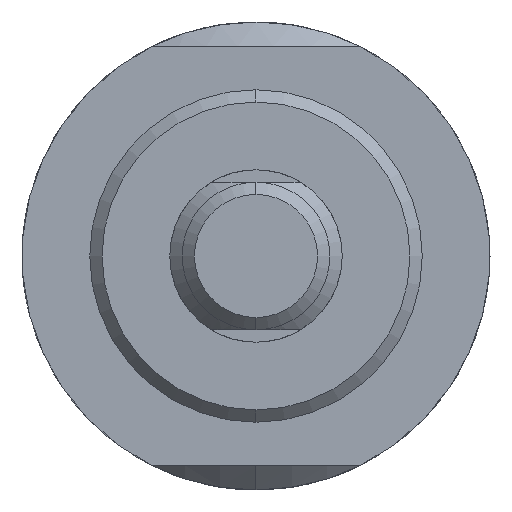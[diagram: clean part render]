
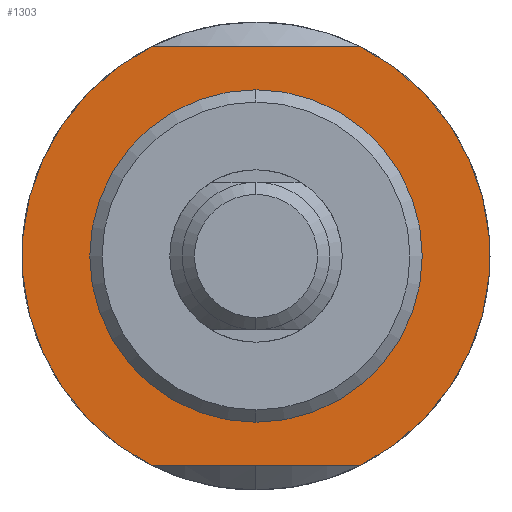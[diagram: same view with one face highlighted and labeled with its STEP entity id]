
A CAD part, left-side view. The second image highlights one B-rep face of the part: STEP entity #1303.
In plain terms, the highlighted planar face has unit normal (-1, 0, 0).
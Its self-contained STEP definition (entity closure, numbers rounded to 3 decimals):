
#10 = ORIENTED_EDGE ( 'NONE', *, *, #189, .F. ) ;
#41 = VECTOR ( 'NONE', #1479, 1000. ) ;
#107 = CARTESIAN_POINT ( 'NONE',  ( 48., -8.485, 17. ) ) ;
#146 = CARTESIAN_POINT ( 'NONE',  ( 48., 15., -17. ) ) ;
#180 = EDGE_LOOP ( 'NONE', ( #1364, #10 ) ) ;
#189 = EDGE_CURVE ( 'NONE', #820, #511, #1575, .T. ) ;
#193 = VERTEX_POINT ( 'NONE', #107 ) ;
#255 = EDGE_CURVE ( 'NONE', #1627, #193, #1677, .T. ) ;
#259 = EDGE_CURVE ( 'NONE', #511, #820, #1459, .T. ) ;
#293 = AXIS2_PLACEMENT_3D ( 'NONE', #904, #1287, #1533 ) ;
#322 = VECTOR ( 'NONE', #1712, 1000. ) ;
#356 = FACE_OUTER_BOUND ( 'NONE', #1842, .T. ) ;
#378 = VERTEX_POINT ( 'NONE', #1425 ) ;
#443 = CARTESIAN_POINT ( 'NONE',  ( 48., 0., 0. ) ) ;
#511 = VERTEX_POINT ( 'NONE', #1812 ) ;
#552 = CARTESIAN_POINT ( 'NONE',  ( 48., 0., -19. ) ) ;
#594 = DIRECTION ( 'NONE',  ( 0., 0., 1. ) ) ;
#599 = EDGE_CURVE ( 'NONE', #378, #193, #1893, .T. ) ;
#640 = DIRECTION ( 'NONE',  ( -1., 0., 0. ) ) ;
#659 = CARTESIAN_POINT ( 'NONE',  ( 48., 0., -13.5 ) ) ;
#765 = LINE ( 'NONE', #146, #41 ) ;
#782 = CARTESIAN_POINT ( 'NONE',  ( 48., 8.485, 17. ) ) ;
#820 = VERTEX_POINT ( 'NONE', #659 ) ;
#841 = DIRECTION ( 'NONE',  ( 1., 0., 0. ) ) ;
#852 = AXIS2_PLACEMENT_3D ( 'NONE', #1663, #1335, #594 ) ;
#870 = ORIENTED_EDGE ( 'NONE', *, *, #1032, .T. ) ;
#904 = CARTESIAN_POINT ( 'NONE',  ( 48., 0., 0. ) ) ;
#942 = CARTESIAN_POINT ( 'NONE',  ( 48., 15., 17. ) ) ;
#980 = DIRECTION ( 'NONE',  ( -1., 0., 0. ) ) ;
#987 = VERTEX_POINT ( 'NONE', #1600 ) ;
#1012 = DIRECTION ( 'NONE',  ( 0., 0., 1. ) ) ;
#1026 = ORIENTED_EDGE ( 'NONE', *, *, #255, .F. ) ;
#1032 = EDGE_CURVE ( 'NONE', #1627, #987, #1757, .T. ) ;
#1194 = AXIS2_PLACEMENT_3D ( 'NONE', #443, #980, #1012 ) ;
#1287 = DIRECTION ( 'NONE',  ( -1., 0., 0. ) ) ;
#1303 = ADVANCED_FACE ( 'NONE', ( #1767, #356 ), #1867, .F. ) ;
#1335 = DIRECTION ( 'NONE',  ( -1., 0., 0. ) ) ;
#1364 = ORIENTED_EDGE ( 'NONE', *, *, #259, .F. ) ;
#1413 = ORIENTED_EDGE ( 'NONE', *, *, #1895, .F. ) ;
#1425 = CARTESIAN_POINT ( 'NONE',  ( 48., -8.485, -17. ) ) ;
#1459 = CIRCLE ( 'NONE', #293, 13.5 ) ;
#1479 = DIRECTION ( 'NONE',  ( 0., 1., 0. ) ) ;
#1488 = AXIS2_PLACEMENT_3D ( 'NONE', #1801, #640, #1682 ) ;
#1533 = DIRECTION ( 'NONE',  ( 0., 0., 1. ) ) ;
#1575 = CIRCLE ( 'NONE', #1194, 13.5 ) ;
#1600 = CARTESIAN_POINT ( 'NONE',  ( 48., 8.485, -17. ) ) ;
#1619 = AXIS2_PLACEMENT_3D ( 'NONE', #552, #841, #1961 ) ;
#1627 = VERTEX_POINT ( 'NONE', #782 ) ;
#1663 = CARTESIAN_POINT ( 'NONE',  ( 48., 0., 0. ) ) ;
#1677 = LINE ( 'NONE', #942, #322 ) ;
#1682 = DIRECTION ( 'NONE',  ( 0., 0., 1. ) ) ;
#1712 = DIRECTION ( 'NONE',  ( 0., -1., 0. ) ) ;
#1757 = CIRCLE ( 'NONE', #1488, 19. ) ;
#1767 = FACE_BOUND ( 'NONE', #180, .T. ) ;
#1778 = ORIENTED_EDGE ( 'NONE', *, *, #599, .T. ) ;
#1801 = CARTESIAN_POINT ( 'NONE',  ( 48., 0., 0. ) ) ;
#1812 = CARTESIAN_POINT ( 'NONE',  ( 48., 0., 13.5 ) ) ;
#1842 = EDGE_LOOP ( 'NONE', ( #870, #1413, #1778, #1026 ) ) ;
#1867 = PLANE ( 'NONE',  #1619 ) ;
#1893 = CIRCLE ( 'NONE', #852, 19. ) ;
#1895 = EDGE_CURVE ( 'NONE', #378, #987, #765, .T. ) ;
#1961 = DIRECTION ( 'NONE',  ( 0., 0., -1. ) ) ;
